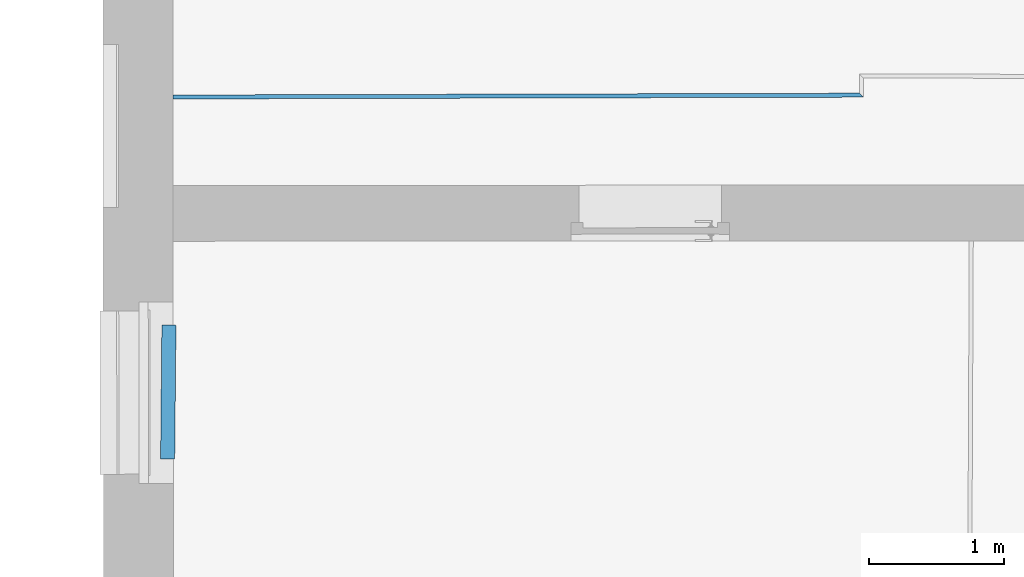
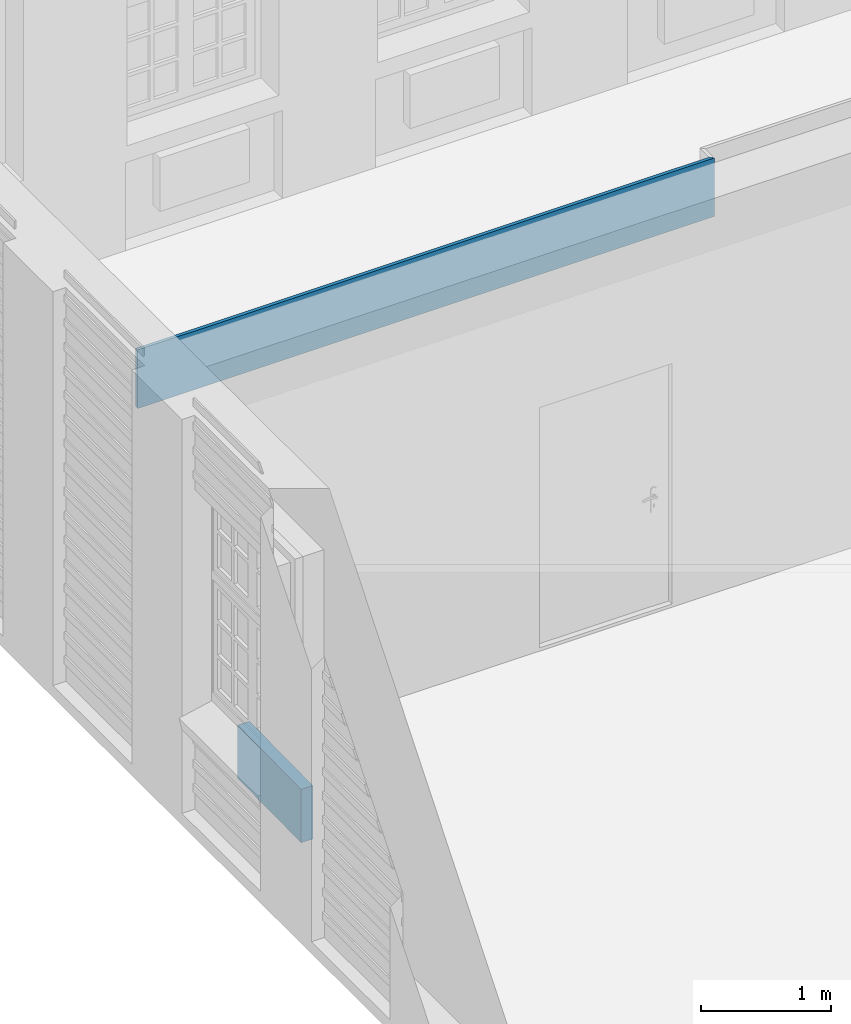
# One storey, part 16 of 158: 2 walls.
"""IFC2X3 building model written with IfcOpenShell, lengths in metres."""

import ifcopenshell
import ifcopenshell.guid

model = None  # the IFC model being written
_history = None  # IfcOwnerHistory: only IFC2X3 demands one
_inside = {}  # id of a spatial element -> (the spatial element, [elements in it])
_under = {}  # id of a project, library or spatial element -> (it, [spatial elements below it])
_declared = {}  # id of a project -> (the project, [libraries it declares])
_typed = {}  # id of a type object -> (the type object, [elements of that type])
_made_of = {}  # id of a material, layer set ... -> (it, [elements and type objects made of it])


def new_model(schema):
    """Start an empty IFC model of exactly this schema.

    Asked for "IFC4X3", IfcOpenShell would pick the latest addendum, in which some entities
    have other attributes; the version numbers below select the first issue.
    IFC2X3 requires an IfcOwnerHistory on every rooted entity: one is made here for all.
    """
    global model, _history
    if schema == "IFC4X3":
        model = ifcopenshell.file(schema_version=(4, 3, 0, 0))
    else:
        model = ifcopenshell.file(schema=schema)
    _inside.clear()
    _under.clear()
    _declared.clear()
    _typed.clear()
    _made_of.clear()
    _history = None
    if model.schema == "IFC2X3":
        org = make("IfcOrganization", Name="unknown")
        user = make(
            "IfcPersonAndOrganization",
            ThePerson=make("IfcPerson", FamilyName="unknown"),
            TheOrganization=org,
        )
        app = make(
            "IfcApplication",
            ApplicationDeveloper=org,
            Version="unknown",
            ApplicationFullName="unknown",
            ApplicationIdentifier="unknown",
        )
        _history = make(
            "IfcOwnerHistory",
            OwningUser=user,
            OwningApplication=app,
            ChangeAction="ADDED",
            CreationDate=0,
        )
    return model


def make(cls, **values):
    """One entity of the class cls with the attributes given. An attribute that is None is left unset."""
    return model.create_entity(
        cls, **{name: value for name, value in values.items() if value is not None}
    )


def entity(cls, *values):
    """Any entity or typed value of the class cls, its attributes in the order of the schema. None: left unset."""
    e = model.create_entity(cls)
    for i, value in enumerate(values):
        if value is not None:
            e[i] = value
    return e


def rooted(cls, **values):
    """An entity with a GlobalId (a new one), such as an element, a storey or a relation."""
    return make(cls, GlobalId=ifcopenshell.guid.new(), OwnerHistory=_history, **values)


def si_unit(unit_type, name, prefix=None):
    """IfcSIUnit, for example si_unit("LENGTHUNIT", "METRE", prefix="MILLI")."""
    return make("IfcSIUnit", UnitType=unit_type, Prefix=prefix, Name=name)


def converted_unit(unit_type, name, factor, base, dimensions=None, offset=None):
    """IfcConversionBasedUnit, such as the inch: factor (a typed value) times the base unit."""
    return make(
        "IfcConversionBasedUnit"
        if offset is None
        else "IfcConversionBasedUnitWithOffset",
        ConversionOffset=offset,
        Dimensions=None
        if dimensions is None
        else entity("IfcDimensionalExponents", *dimensions),
        UnitType=unit_type,
        Name=name,
        ConversionFactor=make(
            "IfcMeasureWithUnit", ValueComponent=factor, UnitComponent=base
        ),
    )


def derived_unit(unit_type, elements):
    """IfcDerivedUnit: a product of units, each with its exponent."""
    return make(
        "IfcDerivedUnit",
        Elements=[
            make("IfcDerivedUnitElement", Unit=unit, Exponent=power)
            for unit, power in elements
        ],
        UnitType=unit_type,
    )


def money_unit(currency):
    """IfcMonetaryUnit."""
    return make("IfcMonetaryUnit", Currency=currency)


def assignment(units):
    """IfcUnitAssignment: the units of a project."""
    return None if units is None else make("IfcUnitAssignment", Units=units)


def point(xyz):
    """IfcCartesianPoint."""
    return None if xyz is None else make("IfcCartesianPoint", Coordinates=xyz)


def direction(xyz):
    """IfcDirection."""
    return None if xyz is None else make("IfcDirection", DirectionRatios=xyz)


def frame(location, z_axis=None, x_axis=None):
    """IfcAxis2Placement3D, a coordinate frame: its origin and axes. An axis left out is left unset."""
    return make(
        "IfcAxis2Placement3D",
        Location=point(location),
        Axis=direction(z_axis),
        RefDirection=direction(x_axis),
    )


def origin_with_axes():
    """The frame at (0, 0, 0) with the z axis (0, 0, 1) and the x axis (1, 0, 0) written out."""
    return frame((0.0, 0.0, 0.0), z_axis=(0.0, 0.0, 1.0), x_axis=(1.0, 0.0, 0.0))


def place(relative_to, where):
    """IfcLocalPlacement: puts the frame where relative to a parent placement (None: the world)."""
    return make(
        "IfcLocalPlacement", PlacementRelTo=relative_to, RelativePlacement=where
    )


def context(
    kind, dimensions, precision=None, world=None, true_north=None, identifier=None
):
    """IfcGeometricRepresentationContext, for example the 3D "Model" context."""
    return make(
        "IfcGeometricRepresentationContext",
        ContextIdentifier=identifier,
        ContextType=kind,
        CoordinateSpaceDimension=dimensions,
        Precision=precision,
        WorldCoordinateSystem=world,
        TrueNorth=true_north,
    )


def subcontext(parent, identifier, kind, view, scale=None):
    """IfcGeometricRepresentationSubContext, for example "Body" below "Model"."""
    return make(
        "IfcGeometricRepresentationSubContext",
        ContextIdentifier=identifier,
        ContextType=kind,
        ParentContext=parent,
        TargetScale=scale,
        TargetView=view,
    )


def project(units=None, contexts=None):
    """IfcProject with its units and contexts."""
    return rooted(
        "IfcProject",
        Name="project",
        RepresentationContexts=contexts,
        UnitsInContext=assignment(units),
    )


def spatial(cls, under=None, at=None, **own):
    """A site, building, storey or space (cls), placed at a placement, below another one or the project."""
    s = rooted(cls, ObjectPlacement=at, **own)
    if under is not None:
        _under.setdefault(under.id(), (under, []))[1].append(s)
    return s


def polyline(points):
    """IfcPolyline through the points."""
    return make("IfcPolyline", Points=[point(p) for p in points])


def outline(outer, holes=None, kind="AREA"):
    """IfcArbitraryClosedProfileDef: a profile drawn as a closed curve; with holes, ...WithVoids."""
    if holes is None:
        return make("IfcArbitraryClosedProfileDef", ProfileType=kind, OuterCurve=outer)
    return make(
        "IfcArbitraryProfileDefWithVoids",
        ProfileType=kind,
        OuterCurve=outer,
        InnerCurves=holes,
    )


def extrude(swept, where, along, depth):
    """IfcExtrudedAreaSolid: the profile swept, set in the frame where, extruded along a direction by depth."""
    return make(
        "IfcExtrudedAreaSolid",
        SweptArea=swept,
        Position=where,
        ExtrudedDirection=direction(along),
        Depth=depth,
    )


def shape(context_of_items, identifier, shape_type, items):
    """IfcShapeRepresentation: the items that make up one representation, for example the "Body"."""
    return make(
        "IfcShapeRepresentation",
        ContextOfItems=context_of_items,
        RepresentationIdentifier=identifier,
        RepresentationType=shape_type,
        Items=items,
    )


def material(Name=None, Category=None):
    """IfcMaterial."""
    return make("IfcMaterial", Name=Name, Category=Category)


def layer(
    of_material, thickness, ventilated=None, Name=None, Category=None, Priority=None
):
    """IfcMaterialLayer: one layer of a wall or slab, of a material (None: an air gap)."""
    return make(
        "IfcMaterialLayer",
        Material=of_material,
        LayerThickness=thickness,
        IsVentilated=ventilated,
        Name=Name,
        Category=Category,
        Priority=Priority,
    )


def layer_set(layers, Name=None):
    """IfcMaterialLayerSet."""
    return make("IfcMaterialLayerSet", MaterialLayers=layers, LayerSetName=Name)


def layer_usage(for_layer_set, set_direction, sense, offset, extent=None):
    """IfcMaterialLayerSetUsage: how a layer set lies in its element."""
    return make(
        "IfcMaterialLayerSetUsage",
        ForLayerSet=for_layer_set,
        LayerSetDirection=set_direction,
        DirectionSense=sense,
        OffsetFromReferenceLine=offset,
        ReferenceExtent=extent,
    )


def made_of(thing, what):
    """Note that an element or type object is made of a material, layer set ...; save() writes the relation."""
    if what is not None:
        _made_of.setdefault(what.id(), (what, []))[1].append(thing)
    return thing


def type_object(cls, material=None, **own):
    """A type object (cls), such as IfcWallType, which elements share."""
    return made_of(rooted(cls, **own), material)


def element(
    cls,
    number,
    at=None,
    inside=None,
    cuts=None,
    type_object=None,
    material=None,
    context=None,
    identifier="Body",
    shape_type=None,
    held_by="IfcProductDefinitionShape",
    body=None,
    shapes=None,
    **own,
):
    """One element of the class cls, such as IfcWall. Its Tag is "e" and its number.

    at: its placement. inside: the storey or other place that contains it. cuts: it is an
    opening in that element (IfcRelVoidsElement). A single representation is given by context,
    identifier, shape_type and body (its items); several are given by shapes. held_by: the class
    of the entity that holds the representations. save() writes the other relations.
    """
    e = rooted(cls, Tag="e%d" % number, ObjectPlacement=at, **own)
    if body is not None:
        shapes = [shape(context, identifier, shape_type, body)]
    if shapes is not None:
        e.Representation = make(held_by, Representations=shapes)
    if inside is not None:
        _inside.setdefault(inside.id(), (inside, []))[1].append(e)
    if cuts is not None:
        rooted(
            "IfcRelVoidsElement", RelatingBuildingElement=cuts, RelatedOpeningElement=e
        )
    if type_object is not None:
        _typed.setdefault(type_object.id(), (type_object, []))[1].append(e)
    return made_of(e, material)


def aggregate(whole, parts):
    """IfcRelAggregates: a whole, such as a stair, and the parts it consists of."""
    return rooted("IfcRelAggregates", RelatingObject=whole, RelatedObjects=parts)


def save(model, path):
    """Write the relations noted so far, then the file.

    IfcRelAggregates (storeys below a building ...), IfcRelContainedInSpatialStructure (elements
    in a storey), IfcRelDefinesByType, IfcRelAssociatesMaterial and IfcRelDeclares: one each for
    every whole, place, type object, material and project.
    """
    for whole, parts in _under.values():
        aggregate(whole, parts)
    for where, things in _inside.values():
        rooted(
            "IfcRelContainedInSpatialStructure",
            RelatedElements=things,
            RelatingStructure=where,
        )
    for kind, things in _typed.values():
        rooted("IfcRelDefinesByType", RelatedObjects=things, RelatingType=kind)
    for what, things in _made_of.values():
        rooted("IfcRelAssociatesMaterial", RelatedObjects=things, RelatingMaterial=what)
    for by, libraries in _declared.values():
        rooted("IfcRelDeclares", RelatingContext=by, RelatedDefinitions=libraries)
    model.write(path)


model = new_model("IFC2X3")

# Units and contexts
model_context = context("Model", 3, precision=1e-05, world=origin_with_axes(), true_north=direction((0.0, 1.0)))
body_context = subcontext(model_context, "Body", "Model", "MODEL_VIEW")
ifc_project = project(units=[si_unit("LENGTHUNIT", "METRE"), si_unit("AREAUNIT", "SQUARE_METRE"), si_unit("VOLUMEUNIT", "CUBIC_METRE"), converted_unit("PLANEANGLEUNIT", "DEGREE", entity("IfcPlaneAngleMeasure", 0.0174532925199), si_unit("PLANEANGLEUNIT", "RADIAN"), dimensions=[0, 0, 0, 0, 0, 0, 0]), money_unit("EUR"), converted_unit("TIMEUNIT", "Year", entity("IfcTimeMeasure", 31556926.0), si_unit("TIMEUNIT", "SECOND"), dimensions=[0, 0, 1, 0, 0, 0, 0]), si_unit("MASSUNIT", "GRAM", prefix="KILO"), si_unit("THERMODYNAMICTEMPERATUREUNIT", "DEGREE_CELSIUS"), si_unit("LUMINOUSINTENSITYUNIT", "LUMEN"), si_unit("ENERGYUNIT", "JOULE", prefix="MEGA"), derived_unit("THERMALCONDUCTANCEUNIT", [(si_unit("POWERUNIT", "WATT"), 1), (si_unit("LENGTHUNIT", "METRE"), -1), (si_unit("THERMODYNAMICTEMPERATUREUNIT", "KELVIN"), -1)]), derived_unit("SPECIFICHEATCAPACITYUNIT", [(si_unit("ENERGYUNIT", "JOULE"), 1), (si_unit("MASSUNIT", "GRAM", prefix="KILO"), -1), (si_unit("THERMODYNAMICTEMPERATUREUNIT", "KELVIN"), -1)]), derived_unit("MASSDENSITYUNIT", [(si_unit("MASSUNIT", "GRAM", prefix="KILO"), 1), (si_unit("VOLUMEUNIT", "CUBIC_METRE"), -1)])], contexts=[model_context])

# Site, building, storey
site_placement = place(None, origin_with_axes())
site = spatial("IfcSite", under=ifc_project, at=site_placement, Name="Gelände", CompositionType="ELEMENT")
building_placement = place(site_placement, origin_with_axes())
building = spatial("IfcBuilding", under=site, at=building_placement, Name="Gebäude", CompositionType="ELEMENT")
storey_placement = place(building_placement, origin_with_axes())
storey = spatial("IfcBuildingStorey", under=building, at=storey_placement, Name="ERDGESCHOSS", CompositionType="ELEMENT", Elevation=0.0)

# Walls
ifc_material_1 = material(Name="43_Gipskarton")
ifc_layer_1 = layer(ifc_material_1, 0.03, ventilated="UNKNOWN")
ifc_layer_set_1 = layer_set([ifc_layer_1], Name="43_Gipskarton 0.03")
ifc_layer_usage_1 = layer_usage(ifc_layer_set_1, "AXIS2", "NEGATIVE", 0.03)
wall_type_1 = type_object("IfcWallType", Name="43_Gipskarton 30", PredefinedType="ELEMENTEDWALL")
wall_1_placement = place(storey_placement, frame((-22.4405198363, 20.3512864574, 2.565), z_axis=(0.0, 0.0, 1.0), x_axis=(-0.999996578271, -0.00261599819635, 0.0)))
element("IfcWallStandardCase", 1, at=wall_1_placement, inside=storey, type_object=wall_type_1, material=ifc_layer_usage_1, Name="Wand-041", ObjectType="ELEMENTEDWALL", context=body_context, shape_type="SweptSolid", body=[
    extrude(outline(polyline([(0.0, 0.0), (5.1029034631, 0.0), (5.10295391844, 0.03), (-0.0299216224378, 0.03), (0.0, 0.0)])), origin_with_axes(), (0.0, 0.0, 1.0), 0.55),
])
ifc_material_2 = material(Name="01_ALLGEMEIN - BAUTEIL")
ifc_layer_2 = layer(ifc_material_2, 0.105, ventilated="UNKNOWN")
ifc_layer_set_2 = layer_set([ifc_layer_2], Name="01_ALLGEMEIN - BAUTEIL 0.105")
ifc_layer_usage_2 = layer_usage(ifc_layer_set_2, "AXIS2", "NEGATIVE", 0.0)
wall_type_2 = type_object("IfcWallType", Name="01_ALLGEMEIN - BAUTEIL 105", PredefinedType="ELEMENTEDWALL")
wall_2_placement = place(storey_placement, frame((-27.521050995, 18.6259171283, 0.140108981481), z_axis=(0.0, 0.0, 1.0), x_axis=(-0.00969335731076, -0.999953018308, 0.0)))
element("IfcWallStandardCase", 2, at=wall_2_placement, inside=storey, type_object=wall_type_2, material=ifc_layer_usage_2, Name="Wand-041", ObjectType="ELEMENTEDWALL", context=body_context, shape_type="SweptSolid", body=[
    extrude(outline(polyline([(0.0, -0.105), (0.994452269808, -0.105), (0.994452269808, 0.0), (0.0, 0.0), (0.0, -0.105)])), origin_with_axes(), (0.0, 0.0, 1.0), 0.501014),
])

save(model, "model.ifc")
